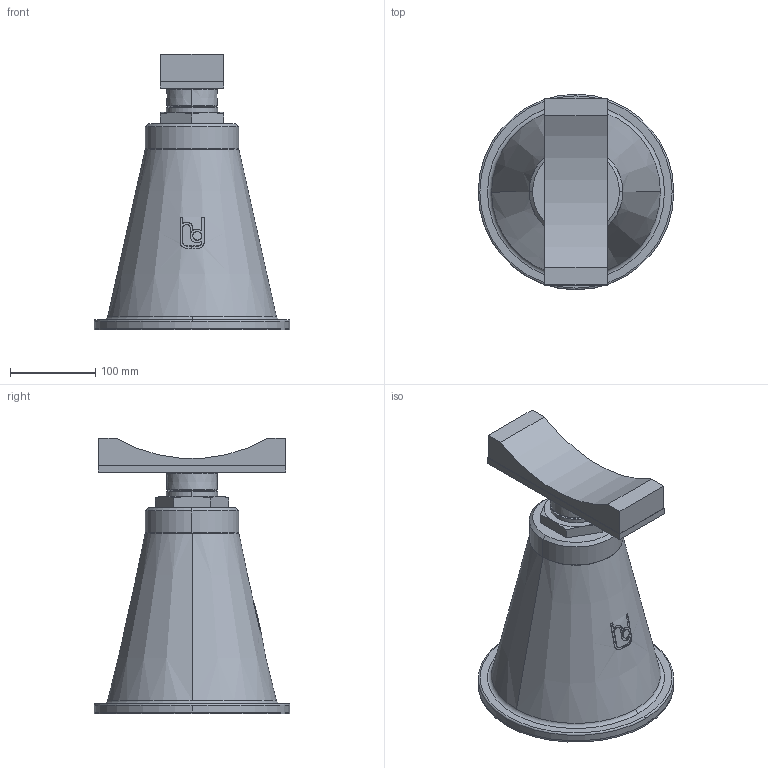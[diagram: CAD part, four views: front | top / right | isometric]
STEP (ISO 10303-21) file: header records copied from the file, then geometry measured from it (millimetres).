
FILE_DESCRIPTION(('STEP AP214'),'1');
FILE_NAME('RSRFA_DN350.stp','2018-06-25T09:56:50',(' '),(' '),'Spatial InterOp 3D',' ',' ');
FILE_SCHEMA(('automotive_design'));
Length unit declared in the file: millimetre
Products named in the file (6): 1; 2; 3; 4; 5; 6
Bounding box: 230 x 230 x 324 mm (x, y, z)
Volume: 5905497 mm3; surface area: 426098.5 mm2
Topology: 6 solids, 7 shells, 118 faces, 280 edges, 180 vertices
Faces by surface type: plane 51, cylinder 34, cone 25, torus 8
Entity records: 4854 total; most frequent: CARTESIAN_POINT 1042, DIRECTION 592, ORIENTED_EDGE 560, EDGE_CURVE 280, AXIS2_PLACEMENT_3D 230, VERTEX_POINT 180, LINE 132, VECTOR 132
